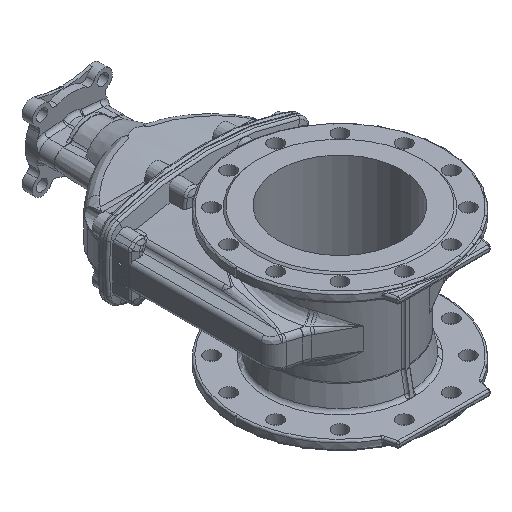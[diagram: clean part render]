
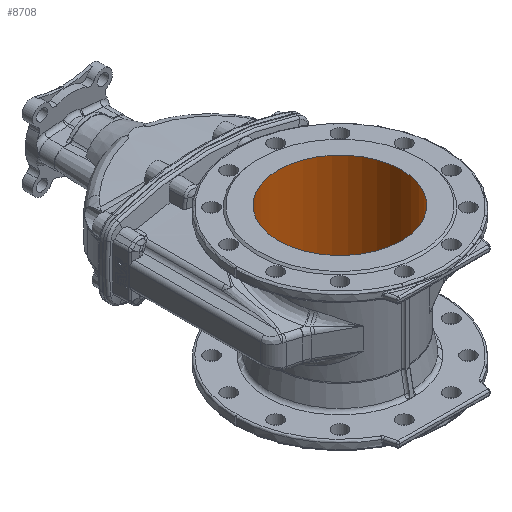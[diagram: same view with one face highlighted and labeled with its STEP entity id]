
A CAD part, isometric view. The second image highlights one B-rep face of the part: STEP entity #8708.
In plain terms, the highlighted cylindrical face has radius 100 mm (diameter 200 mm), a full revolution.
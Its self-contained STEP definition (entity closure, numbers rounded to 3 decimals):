
#206 = CYLINDRICAL_SURFACE ( 'NONE', #3540, 100. ) ;
#506 = AXIS2_PLACEMENT_3D ( 'NONE', #24974, #5390, #18394 ) ;
#2037 = CARTESIAN_POINT ( 'NONE',  ( -100., 0., 115. ) ) ;
#3540 = AXIS2_PLACEMENT_3D ( 'NONE', #8760, #6340, #23783 ) ;
#4362 = DIRECTION ( 'NONE',  ( -1., 0., 0. ) ) ;
#4365 = FACE_OUTER_BOUND ( 'NONE', #22865, .T. ) ;
#5390 = DIRECTION ( 'NONE',  ( 0., 0., -1. ) ) ;
#6340 = DIRECTION ( 'NONE',  ( 0., 0., -1. ) ) ;
#8708 = ADVANCED_FACE ( 'NONE', ( #12932, #4365 ), #206, .F. ) ;
#8760 = CARTESIAN_POINT ( 'NONE',  ( 0., 0., 115. ) ) ;
#10650 = AXIS2_PLACEMENT_3D ( 'NONE', #15204, #15342, #4362 ) ;
#10751 = CARTESIAN_POINT ( 'NONE',  ( -100., 0., -115. ) ) ;
#12873 = EDGE_LOOP ( 'NONE', ( #15478 ) ) ;
#12891 = VERTEX_POINT ( 'NONE', #2037 ) ;
#12932 = FACE_OUTER_BOUND ( 'NONE', #12873, .T. ) ;
#14761 = CIRCLE ( 'NONE', #10650, 100. ) ;
#15204 = CARTESIAN_POINT ( 'NONE',  ( 0., 0., -115. ) ) ;
#15342 = DIRECTION ( 'NONE',  ( 0., 0., -1. ) ) ;
#15478 = ORIENTED_EDGE ( 'NONE', *, *, #28292, .T. ) ;
#16952 = CIRCLE ( 'NONE', #506, 100. ) ;
#18394 = DIRECTION ( 'NONE',  ( -1., 0., 0. ) ) ;
#19192 = VERTEX_POINT ( 'NONE', #10751 ) ;
#22865 = EDGE_LOOP ( 'NONE', ( #23605 ) ) ;
#23605 = ORIENTED_EDGE ( 'NONE', *, *, #25509, .F. ) ;
#23783 = DIRECTION ( 'NONE',  ( -1., 0., 0. ) ) ;
#24974 = CARTESIAN_POINT ( 'NONE',  ( 0., 0., 115. ) ) ;
#25509 = EDGE_CURVE ( 'NONE', #12891, #12891, #16952, .T. ) ;
#28292 = EDGE_CURVE ( 'NONE', #19192, #19192, #14761, .T. ) ;
